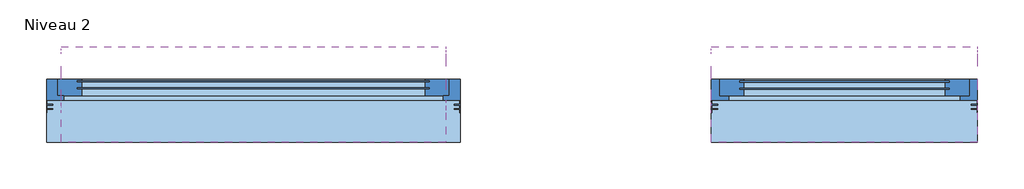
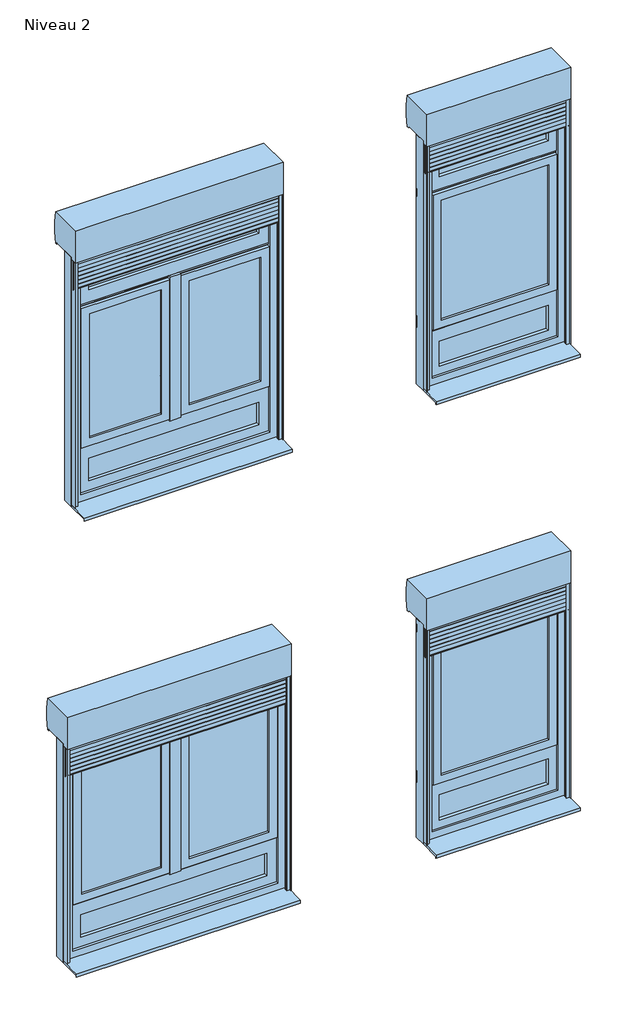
# One storey: 4 windows.
"""IFC4 building model written with IfcOpenShell, lengths in millimetres."""

from ifc_helpers import new_model, si_unit, origin, place, context, project, spatial, transform, mapped, element, save
from components import window_b5c8aea6, window_56807e02, window_1ac53e70, window_0c8a83d3

model = new_model("IFC4")

# Units and contexts
model_context = context("Model", 3, world=origin())
ifc_project = project(units=[si_unit("LENGTHUNIT", "METRE", prefix="MILLI")], contexts=[model_context])

# Site, building, storey
site = spatial("IfcSite", under=ifc_project)
building = spatial("IfcBuilding", under=site)
storey = spatial("IfcBuildingStorey", under=building, Name="Niveau 2", Elevation=6000.0)

# Windows
placement = place(None, origin())
window_shape = window_b5c8aea6(model_context)
element("IfcWindow", 1, ObjectType="6. OF1 + Fixe en B ENR PVC-ALU : OF2 130X165 (LXH) cm", at=placement, inside=storey, context=model_context, shape_type="MappedRepresentation", body=[
    mapped(window_shape, transform((-2846.5524646, 109.3321867, 6200.0), x_axis=(-1.0, 0.0, 0.0), y_axis=(0.0, -1.0, 0.0), z_axis=(0.0, 0.0, 1.0))),
])
window_2_shape = window_56807e02(model_context)
element("IfcWindow", 2, ObjectType="7. OF2 ENR + Fixe en B PVC-ALU : OF2 130X165 (LXH) cm", at=placement, inside=storey, context=model_context, shape_type="MappedRepresentation", body=[
    mapped(window_2_shape, transform((-4846.5524646, 109.3321867, 6200.0), x_axis=(-1.0, 0.0, 0.0), y_axis=(0.0, -1.0, 0.0), z_axis=(0.0, 0.0, 1.0))),
])
window_3_shape = window_1ac53e70(model_context)
element("IfcWindow", 3, ObjectType="10. OF1 + 2 Fixes en B et en H ENR PVC-ALU : OF1  90X165 (LXH) cm + 2 Fixes en B et H", at=placement, inside=storey, context=model_context, shape_type="MappedRepresentation", body=[
    mapped(window_3_shape, transform((-2846.5524646, 109.3321867, 9500.0), x_axis=(-1.0, 0.0, 0.0), y_axis=(0.0, -1.0, 0.0), z_axis=(0.0, 0.0, 1.0))),
])
window_4_shape = window_0c8a83d3(model_context)
element("IfcWindow", 4, ObjectType="11. OF2 ENR + 2 Fixes en B et en H PVC-ALU : OF2 130X165 (LXH) cm + 2 Fixes en B et H", at=placement, inside=storey, context=model_context, shape_type="MappedRepresentation", body=[
    mapped(window_4_shape, transform((-4846.5524646, 109.3321867, 9200.0), x_axis=(-1.0, 0.0, 0.0), y_axis=(0.0, -1.0, 0.0), z_axis=(0.0, 0.0, 1.0))),
])

save(model, "model.ifc")
